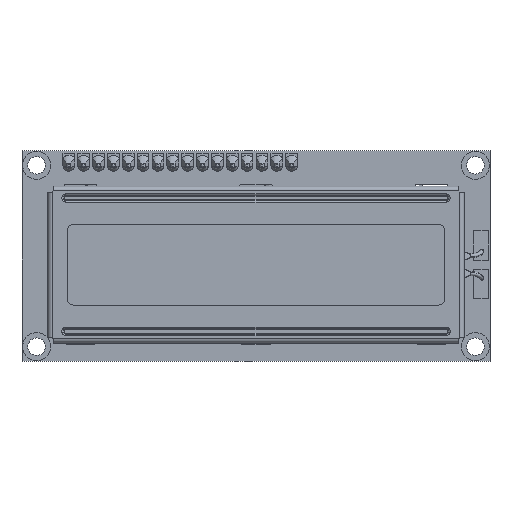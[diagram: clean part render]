
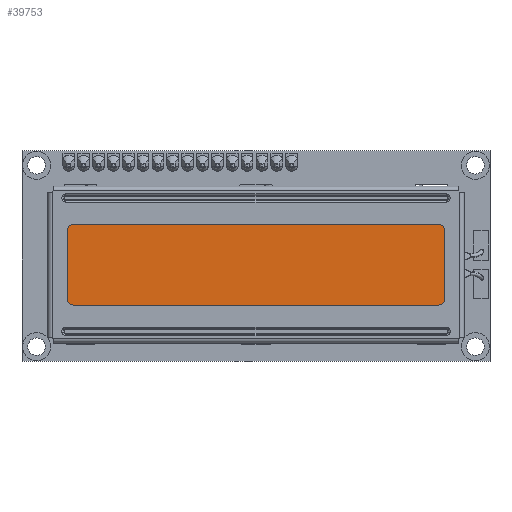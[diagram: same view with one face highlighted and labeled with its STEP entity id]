
A CAD part, top view. The second image highlights one B-rep face of the part: STEP entity #39753.
In plain terms, the highlighted planar face has unit normal (0, 0, 1) as drawn and (0, 1, 0) by its records, which use the part's own axes.
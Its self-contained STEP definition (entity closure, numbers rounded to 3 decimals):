
#39644 = VERTEX_POINT('',#39645);
#39645 = CARTESIAN_POINT('',(-34.25,1.1,12.5));
#39651 = EDGE_CURVE('',#39652,#39644,#39654,.T.);
#39652 = VERTEX_POINT('',#39653);
#39653 = CARTESIAN_POINT('',(-34.25,1.1,-12.5));
#39654 = LINE('',#39655,#39656);
#39655 = CARTESIAN_POINT('',(-34.25,1.1,-12.5));
#39656 = VECTOR('',#39657,1.);
#39657 = DIRECTION('',(0.,0.,1.));
#39682 = VERTEX_POINT('',#39683);
#39683 = CARTESIAN_POINT('',(34.25,1.1,12.5));
#39689 = EDGE_CURVE('',#39644,#39682,#39690,.T.);
#39690 = LINE('',#39691,#39692);
#39691 = CARTESIAN_POINT('',(-34.25,1.1,12.5));
#39692 = VECTOR('',#39693,1.);
#39693 = DIRECTION('',(1.,0.,0.));
#39713 = VERTEX_POINT('',#39714);
#39714 = CARTESIAN_POINT('',(34.25,1.1,-12.5));
#39720 = EDGE_CURVE('',#39682,#39713,#39721,.T.);
#39721 = LINE('',#39722,#39723);
#39722 = CARTESIAN_POINT('',(34.25,1.1,-12.5));
#39723 = VECTOR('',#39724,1.);
#39724 = DIRECTION('',(-0.,-0.,-1.));
#39742 = EDGE_CURVE('',#39713,#39652,#39743,.T.);
#39743 = LINE('',#39744,#39745);
#39744 = CARTESIAN_POINT('',(-34.25,1.1,-12.5));
#39745 = VECTOR('',#39746,1.);
#39746 = DIRECTION('',(-1.,-0.,-0.));
#39753 = ADVANCED_FACE('',(#39754),#39760,.T.);
#39754 = FACE_BOUND('',#39755,.T.);
#39755 = EDGE_LOOP('',(#39756,#39757,#39758,#39759));
#39756 = ORIENTED_EDGE('',*,*,#39651,.T.);
#39757 = ORIENTED_EDGE('',*,*,#39689,.T.);
#39758 = ORIENTED_EDGE('',*,*,#39720,.T.);
#39759 = ORIENTED_EDGE('',*,*,#39742,.T.);
#39760 = PLANE('',#39761);
#39761 = AXIS2_PLACEMENT_3D('',#39762,#39763,#39764);
#39762 = CARTESIAN_POINT('',(0.,1.1,0.));
#39763 = DIRECTION('',(0.,1.,0.));
#39764 = DIRECTION('',(0.,-0.,1.));
